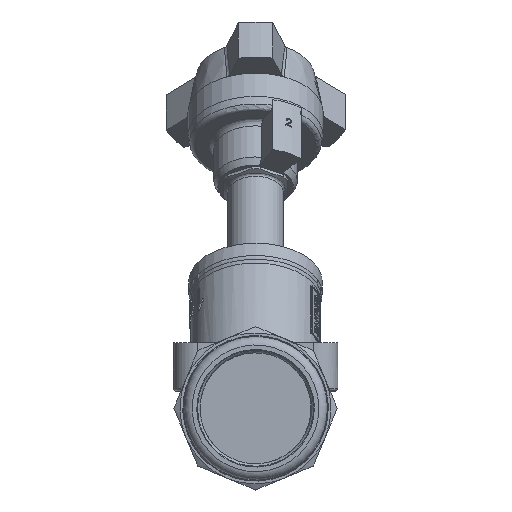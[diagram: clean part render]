
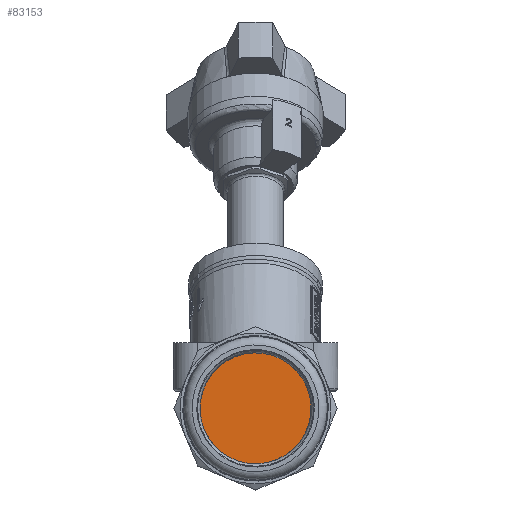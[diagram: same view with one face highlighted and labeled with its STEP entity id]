
A CAD part, left-side view. The second image highlights one B-rep face of the part: STEP entity #83153.
In plain terms, the highlighted planar face has unit normal (-1, 0, 0).
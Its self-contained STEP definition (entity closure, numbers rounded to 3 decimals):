
#83137=CARTESIAN_POINT('',(-129.6,10.194,1.383));
#83138=DIRECTION('',(-1.0,0.0,0.0));
#83139=DIRECTION('',(0.0,-0.134,0.991));
#83140=AXIS2_PLACEMENT_3D('',#83137,#83138,#83139);
#83141=PLANE('',#83140);
#83142=CARTESIAN_POINT('',(-129.6,20.388,2.765));
#83143=VERTEX_POINT('',#83142);
#83144=CARTESIAN_POINT('',(-129.6,0.,0.));
#83145=DIRECTION('',(-1.,0.,0.));
#83146=DIRECTION('',(0.,0.991,0.134));
#83147=AXIS2_PLACEMENT_3D('',#83144,#83145,#83146);
#83148=CIRCLE('',#83147,20.575);
#83149=EDGE_CURVE('',#83143,#83143,#83148,.T.);
#83150=ORIENTED_EDGE('',*,*,#83149,.T.);
#83151=EDGE_LOOP('',(#83150));
#83152=FACE_OUTER_BOUND('',#83151,.T.);
#83153=ADVANCED_FACE('',(#83152),#83141,.T.);
